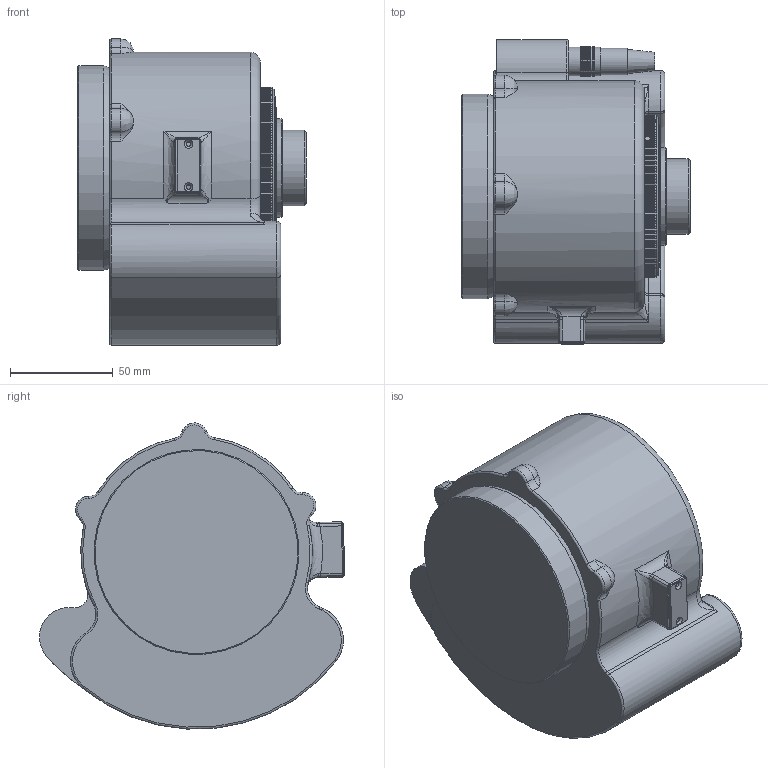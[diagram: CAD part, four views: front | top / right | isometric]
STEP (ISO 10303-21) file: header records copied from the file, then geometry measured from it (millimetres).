
FILE_DESCRIPTION((''),'2;1');
FILE_NAME('C:\Users\dblandino\Desktop\C0811_077_001.stp','2014-04-28T12:13:20',('dblandino'),(''),'Autodesk Inventor 2010','Autodesk Inventor 2010','');
FILE_SCHEMA(('AUTOMOTIVE_DESIGN { 1 0 10303 214 1 1 1 1 }'));
Length unit declared in the file: millimetre
Products named in the file (2): C0811_077_001.iam (Livello di dettaglio sostituto1); C0811_077_001_SUB
Assembly tree (1 placements, depth 2):
  C0811_077_001.iam (Livello di dettaglio sostituto1)
    C0811_077_001_SUB
Bounding box: 111.32 x 148.79 x 149.36 mm (x, y, z)
Volume: 1305619.6 mm3; surface area: 80241.8 mm2
Topology: 1 solids, 1 shells, 773 faces, 2162 edges, 1390 vertices
Faces by surface type: plane 400, cylinder 247, cone 51, torus 40, bspline 32, sphere 3
Full cylindrical faces by diameter (mm): 13 x1, 14 x22, 37 x1, 48 x1, 100 x1
Entity records: 25744 total; most frequent: CARTESIAN_POINT 6197, ORIENTED_EDGE 4124, DIRECTION 3761, EDGE_CURVE 2062, AXIS2_PLACEMENT_3D 1385, VERTEX_POINT 1381, VECTOR 991, LINE 991
